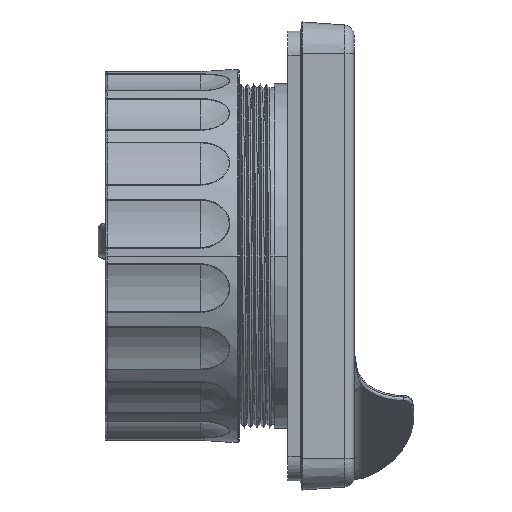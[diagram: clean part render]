
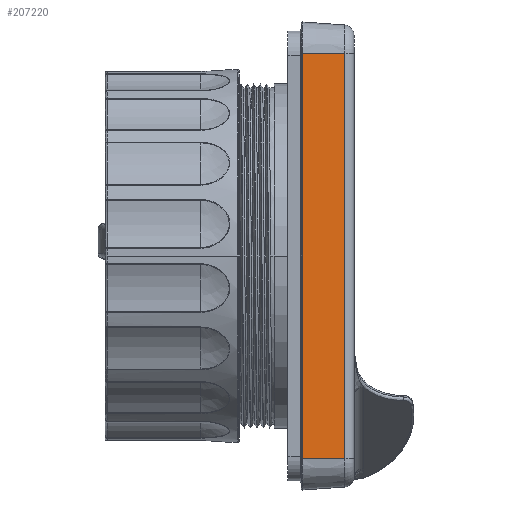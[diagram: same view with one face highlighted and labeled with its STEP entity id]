
A CAD part, left-side view. The second image highlights one B-rep face of the part: STEP entity #207220.
In plain terms, the highlighted planar face has unit normal (-0.998, -0.07, 0) as drawn and (0.998, 0, 0.07) by its records, which use the part's own axes.
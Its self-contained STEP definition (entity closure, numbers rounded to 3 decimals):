
#164122=DIRECTION('',(0.,1.,0.));
#164123=VECTOR('',#164122,99.9);
#164124=CARTESIAN_POINT('',(63.285,-49.95,
0.214));
#164125=LINE('',#164124,#164123);
#164859=DIRECTION('',(0.,-1.,0.));
#164860=VECTOR('',#164859,99.9);
#164861=CARTESIAN_POINT('',(62.554,49.95,
10.674));
#164862=LINE('',#164861,#164860);
#164882=DIRECTION('',(-0.07,0.,0.998));
#164883=VECTOR('',#164882,10.486);
#164884=CARTESIAN_POINT('',(63.285,49.95,
0.214));
#164885=LINE('',#164884,#164883);
#164886=DIRECTION('',(0.07,0.,-0.998));
#164887=VECTOR('',#164886,10.486);
#164888=CARTESIAN_POINT('',(62.554,-49.95,
10.674));
#164889=LINE('',#164888,#164887);
#196553=CARTESIAN_POINT('',(63.285,49.95,0.214));
#196554=VERTEX_POINT('',#196553);
#196561=CARTESIAN_POINT('',(63.285,-49.95,0.214));
#196562=VERTEX_POINT('',#196561);
#196847=CARTESIAN_POINT('',(62.554,-49.95,10.674));
#196848=VERTEX_POINT('',#196847);
#196849=CARTESIAN_POINT('',(62.554,49.95,10.674));
#196850=VERTEX_POINT('',#196849);
#207208=CARTESIAN_POINT('',(63.3,-52.139,0.));
#207209=DIRECTION('',(0.998,0.,0.07));
#207210=DIRECTION('',(0.,-1.,0.));
#207211=AXIS2_PLACEMENT_3D('',#207208,#207209,#207210);
#207212=PLANE('',#207211);
#207213=ORIENTED_EDGE('',*,*,#207176,.F.);
#207214=ORIENTED_EDGE('',*,*,#207203,.F.);
#207215=ORIENTED_EDGE('',*,*,#206373,.F.);
#207217=ORIENTED_EDGE('',*,*,#207216,.F.);
#207218=EDGE_LOOP('',(#207213,#207214,#207215,#207217));
#207219=FACE_OUTER_BOUND('',#207218,.F.);
#207220=ADVANCED_FACE('',(#207219),#207212,.T.);
#206373=EDGE_CURVE('',#196562,#196554,#164125,.T.);
#207176=EDGE_CURVE('',#196850,#196848,#164862,.T.);
#207203=EDGE_CURVE('',#196554,#196850,#164885,.T.);
#207216=EDGE_CURVE('',#196848,#196562,#164889,.T.);
